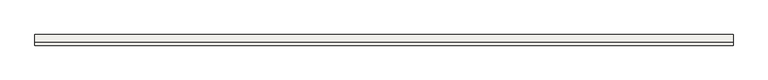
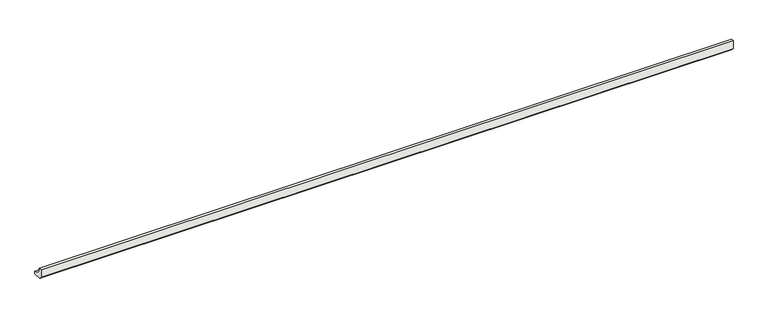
"""IFC4 building model written with IfcOpenShell, lengths in millimetres: slab geometry, ROSA GRES_188 : Pieza 188_Pietro_White_Anti-Slip."""

from ifc_helpers import new_model, si_unit, point, frame, frame_2d, origin, place, context, project, spatial, polyline, circle_curve, trimmed, segment, composite_curve, outline, extrude, source, transform, mapped, element, save


def slab_bd7349c6(model_context):
    return source(origin(), model_context, "Body", "SweptSolid", [
        extrude(outline(composite_curve([segment(polyline([(0.0, 8.7114978), (0.0, 40.0), (9.9734114, 40.0)]), True, "CONTINUOUS"), segment(trimmed(circle_curve(frame_2d((39.9955547, 39.9955547)), 30.0221435), [point((9.9734114, 40.0))], [point((40.0, 9.9734114))], True, "CARTESIAN"), True, "CONTINUOUS"), segment(polyline([(40.0, 9.9734114), (40.0, 0.0), (8.7114978, 0.0), (0.0, 8.7114978)]), True, "CONTINUOUS")], self_intersect=False)), frame((0.0, 0.0, 0.0), z_axis=(1.0, 0.0, 0.0), x_axis=(0.0, 1.0, 0.0)), (0.0, 0.0, 1.0), 2622.5312415),
    ])


if __name__ == "__main__":
    model = new_model("IFC4")
    model_context = context("Model", 3, world=origin())
    ifc_project = project(units=[si_unit("LENGTHUNIT", "METRE", prefix="MILLI")], contexts=[model_context])
    site = spatial("IfcSite", under=ifc_project)
    building = spatial("IfcBuilding", under=site)
    placement = place(None, origin())
    slab_shape = slab_bd7349c6(model_context)
    element("IfcSlab", 1, ObjectType="ROSA GRES_188 : Pieza 188_Pietro_White_Anti-Slip", at=placement, inside=building, context=model_context, shape_type="MappedRepresentation", body=[
        mapped(slab_shape, transform((0.0, 0.0, 0.0), x_axis=(1.0, 0.0, 0.0), y_axis=(0.0, 1.0, 0.0), z_axis=(0.0, 0.0, 1.0))),
    ])
    save(model, "model.ifc")
